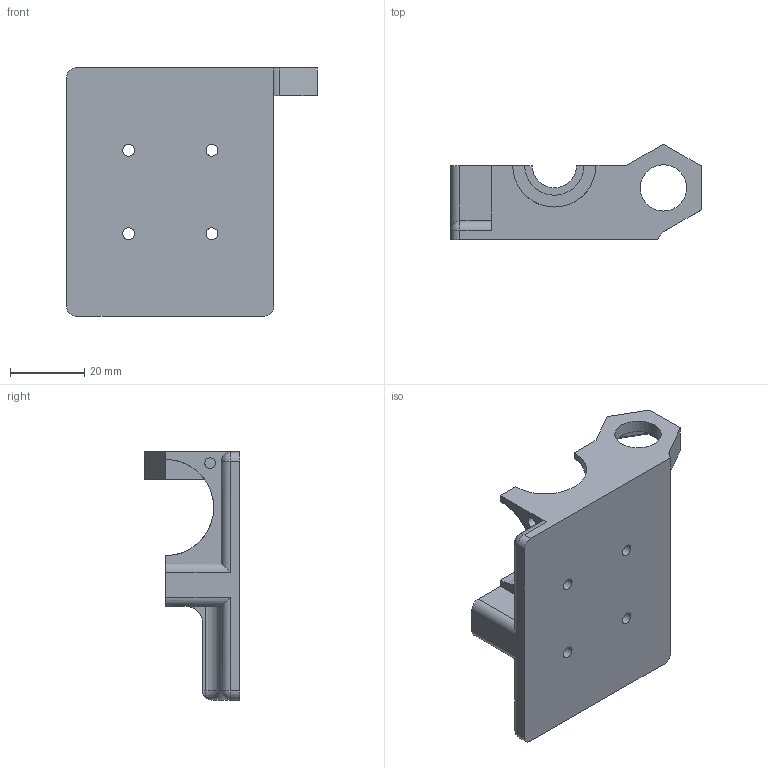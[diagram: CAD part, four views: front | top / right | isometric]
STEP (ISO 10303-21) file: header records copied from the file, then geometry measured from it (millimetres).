
FILE_DESCRIPTION(/* description */ (''),/* implementation_level */ '2;1');
FILE_NAME(/* name */ 'C:/Users/jack-_000/Documents/3dPrinter/Models/Venture Aeon/Bowden X Carriage/Main 12mm.step',/* time_stamp */ '2017-03-18T19:33:04+00:00',/* author */ (''),/* organization */ (''),/* preprocessor_version */ 'ST-DEVELOPER v16.5',/* originating_system */ 'Autodesk Translation Framework v5.2.0.2920',/* authorisation */ '');
FILE_SCHEMA (('AUTOMOTIVE_DESIGN { 1 0 10303 214 3 1 1 }'));
Length unit declared in the file: millimetre
Products named in the file (1): X carriage mount 12mm v20
Bounding box: 67.72 x 25.76 x 67 mm (x, y, z)
Volume: 35455.5 mm3; surface area: 13088.6 mm2
Topology: 1 solids, 1 shells, 104 faces, 267 edges, 170 vertices
Faces by surface type: plane 59, cylinder 39, torus 3, sphere 3
Full cylindrical faces by diameter (mm): 2.9 x1, 3.2 x8, 6 x4, 12.5 x1
Entity records: 3327 total; most frequent: CARTESIAN_POINT 778, DIRECTION 529, ORIENTED_EDGE 498, EDGE_CURVE 249, AXIS2_PLACEMENT_3D 186, VERTEX_POINT 166, LINE 157, VECTOR 157
